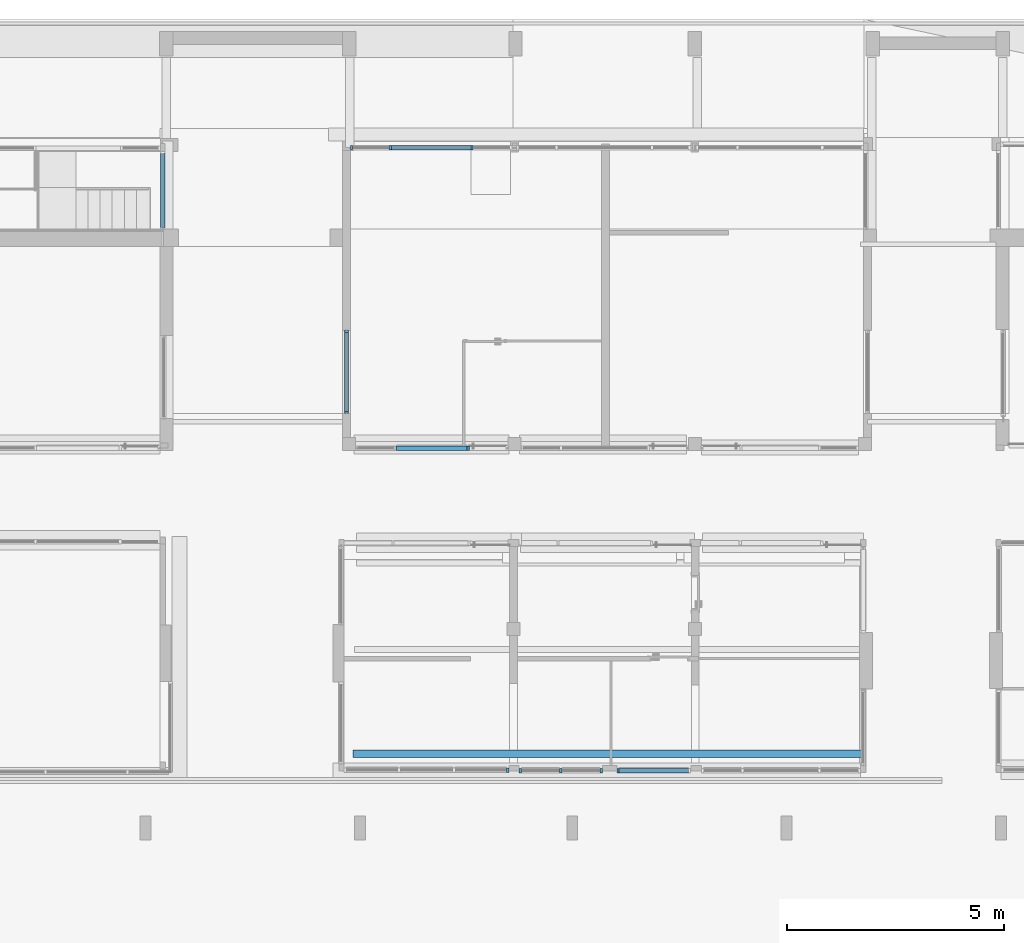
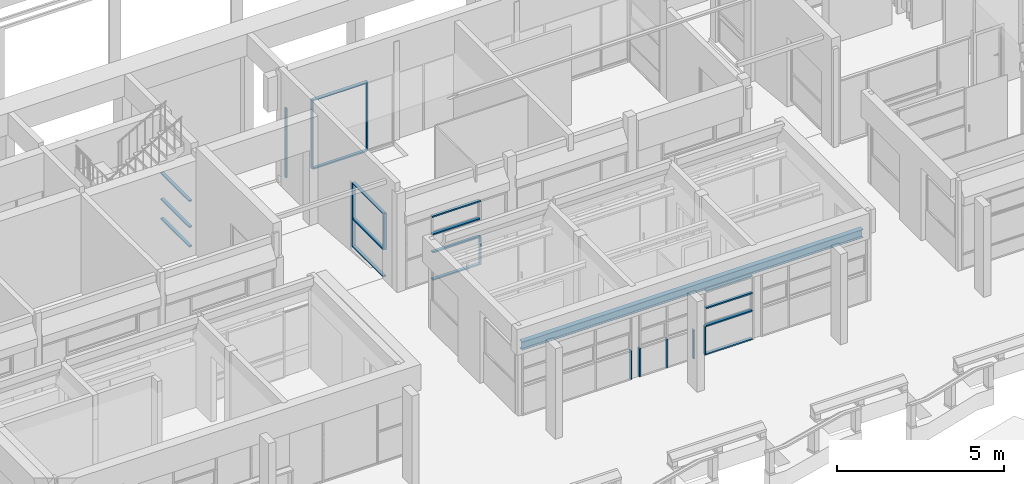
# One storey, part 10 of 117: 28 members, 1 beam, 7 elements without a shape of their own.
"""IFC4 building model written with IfcOpenShell, lengths in metres."""

from ifc_helpers import new_model, entity, si_unit, converted_unit, derived_unit, direction, frame, origin, place, context, subcontext, project, spatial, line, arc, indexed_curve, outline, extrude, source, transform, mapped, material, type_object, type_shapes, element, aggregate, save


model = new_model("IFC4")

# Units and contexts
model_context = context("Model", 3, precision=1e-05, world=origin(), true_north=direction((6.123031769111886e-17, 1.0)))
body_context = subcontext(model_context, "Body", "Model", "MODEL_VIEW")
ifc_project = project(units=[si_unit("LENGTHUNIT", "METRE"), si_unit("AREAUNIT", "SQUARE_METRE"), si_unit("VOLUMEUNIT", "CUBIC_METRE"), converted_unit("PLANEANGLEUNIT", "DEGREE", entity("IfcRatioMeasure", 0.017453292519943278), si_unit("PLANEANGLEUNIT", "RADIAN"), dimensions=[0, 0, 0, 0, 0, 0, 0]), si_unit("MASSUNIT", "GRAM", prefix="KILO"), derived_unit("MASSDENSITYUNIT", [(si_unit("MASSUNIT", "GRAM", prefix="KILO"), 1), (si_unit("LENGTHUNIT", "METRE"), -3)]), derived_unit("MOMENTOFINERTIAUNIT", [(si_unit("LENGTHUNIT", "METRE"), 4)]), si_unit("TIMEUNIT", "SECOND"), si_unit("FREQUENCYUNIT", "HERTZ"), si_unit("THERMODYNAMICTEMPERATUREUNIT", "DEGREE_CELSIUS"), derived_unit("THERMALTRANSMITTANCEUNIT", [(si_unit("MASSUNIT", "GRAM", prefix="KILO"), 1), (si_unit("THERMODYNAMICTEMPERATUREUNIT", "KELVIN"), -1), (si_unit("TIMEUNIT", "SECOND"), -3)]), derived_unit("VOLUMETRICFLOWRATEUNIT", [(si_unit("LENGTHUNIT", "METRE"), 3), (si_unit("TIMEUNIT", "SECOND"), -1)]), derived_unit("MASSFLOWRATEUNIT", [(si_unit("MASSUNIT", "GRAM", prefix="KILO"), 1), (si_unit("TIMEUNIT", "SECOND"), -1)]), derived_unit("ROTATIONALFREQUENCYUNIT", [(si_unit("TIMEUNIT", "SECOND"), -1)]), si_unit("ELECTRICCURRENTUNIT", "AMPERE"), si_unit("ELECTRICVOLTAGEUNIT", "VOLT"), si_unit("POWERUNIT", "WATT"), si_unit("FORCEUNIT", "NEWTON", prefix="KILO"), si_unit("ILLUMINANCEUNIT", "LUX"), si_unit("LUMINOUSFLUXUNIT", "LUMEN"), si_unit("LUMINOUSINTENSITYUNIT", "CANDELA"), derived_unit("USERDEFINED", [(si_unit("MASSUNIT", "GRAM", prefix="KILO"), -1), (si_unit("LENGTHUNIT", "METRE"), -2), (si_unit("TIMEUNIT", "SECOND"), 3), (si_unit("LUMINOUSFLUXUNIT", "LUMEN"), 1)]), derived_unit("SOUNDPOWERUNIT", [(si_unit("MASSUNIT", "GRAM", prefix="KILO"), 1), (si_unit("LENGTHUNIT", "METRE"), 2), (si_unit("TIMEUNIT", "SECOND"), -3)]), derived_unit("SOUNDPRESSUREUNIT", [(si_unit("MASSUNIT", "GRAM", prefix="KILO"), 1), (si_unit("LENGTHUNIT", "METRE"), -1), (si_unit("TIMEUNIT", "SECOND"), -2)]), derived_unit("LINEARVELOCITYUNIT", [(si_unit("LENGTHUNIT", "METRE"), 1), (si_unit("TIMEUNIT", "SECOND"), -1)]), si_unit("PRESSUREUNIT", "PASCAL"), derived_unit("USERDEFINED", [(si_unit("LENGTHUNIT", "METRE"), -2), (si_unit("MASSUNIT", "GRAM", prefix="KILO"), 1), (si_unit("TIMEUNIT", "SECOND"), -2)]), derived_unit("LINEARFORCEUNIT", [(si_unit("MASSUNIT", "GRAM", prefix="KILO"), 1), (si_unit("LENGTHUNIT", "METRE"), 1), (si_unit("TIMEUNIT", "SECOND"), -2), (si_unit("LENGTHUNIT", "METRE"), -1)]), derived_unit("PLANARFORCEUNIT", [(si_unit("MASSUNIT", "GRAM", prefix="KILO"), 1), (si_unit("LENGTHUNIT", "METRE"), 1), (si_unit("TIMEUNIT", "SECOND"), -2), (si_unit("LENGTHUNIT", "METRE"), -2)])], contexts=[model_context])

# Site, building, storey
site_placement = place(None, origin())
site = spatial("IfcSite", under=ifc_project, at=site_placement, Name="Superficie", CompositionType="ELEMENT")
building_placement = place(site_placement, origin())
building = spatial("IfcBuilding", under=site, at=building_placement, CompositionType="ELEMENT")
storey_placement = place(building_placement, origin())
storey = spatial("IfcBuildingStorey", under=building, at=storey_placement, Name="Nivel 0", CompositionType="ELEMENT", Elevation=0.0)

# Curtain wall, member
curtain_wall_type = type_object("IfcCurtainWallType", Name="Muro cortina:Muro cortina - simple", PredefinedType="NOTDEFINED")
curtain_wall_1_placement = place(storey_placement, origin())
curtain_wall_1 = element("IfcCurtainWall", 1, at=curtain_wall_1_placement, inside=storey, type_object=curtain_wall_type, Name="Muro cortina:Muro cortina - simple", ObjectType="Muro cortina:Muro cortina - simple", PredefinedType="NOTDEFINED")
ifc_material_1 = material(Name="<Unnamed>")
member_type_1 = type_object("IfcMemberType", Name="Montante rectangular:Montante rectangular - 5 x 10 cm", PredefinedType="MULLION", material=ifc_material_1)
shared_shape_1 = source(origin(), body_context, "Body", "SweptSolid", [
    extrude(outline(indexed_curve([(-0.05, -0.025), (0.05, -0.025), (0.05, 0.025), (-0.05, 0.025), (-0.05, -0.025)], self_intersect=False)), frame((0.0, 0.0, -1.0250000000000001), z_axis=(0.0, 0.0, 1.0), x_axis=(0.0, -1.0, 0.0)), (0.0, 0.0, 1.0), 1.0250000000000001),
])
type_shapes(member_type_1, [shared_shape_1])
member_1_placement = place(curtain_wall_1_placement, frame((0.8515520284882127, 8.413973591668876, -0.004999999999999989), z_axis=(0.0, 0.0, -1.0), x_axis=(0.0, -1.0, 0.0)))
member_1 = element("IfcMember", 2, at=member_1_placement, type_object=member_type_1, material=ifc_material_1, Name="Montante rectangular:Montante rectangular - 5 x 10 cm", ObjectType="Montante rectangular:Montante rectangular - 5 x 10 cm", PredefinedType="MULLION", context=body_context, shape_type="MappedRepresentation", body=[
    mapped(shared_shape_1, transform((0.0, 0.0, 0.0), scale=1.0)),
])

curtain_wall_2_placement = place(storey_placement, origin())
curtain_wall_2 = element("IfcCurtainWall", 3, at=curtain_wall_2_placement, inside=storey, type_object=curtain_wall_type, Name="Muro cortina:Muro cortina - simple", ObjectType="Muro cortina:Muro cortina - simple", PredefinedType="NOTDEFINED")
member_2_placement = place(curtain_wall_2_placement, frame((3.66155202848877, 5.716739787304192, -0.005000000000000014), z_axis=(0.0, 0.0, -1.0), x_axis=(1.0, 0.0, 0.0)))
member_2 = element("IfcMember", 4, at=member_2_placement, type_object=member_type_1, material=ifc_material_1, Name="Montante rectangular:Montante rectangular - 5 x 10 cm", ObjectType="Montante rectangular:Montante rectangular - 5 x 10 cm", PredefinedType="MULLION", context=body_context, shape_type="MappedRepresentation", body=[
    mapped(shared_shape_1, transform((0.0, 0.0, 0.0), scale=1.0)),
])

# Member
member_type_2 = type_object("IfcMemberType", Name="Montante rectangular:Montante rectangular - 5 x 10 cm", PredefinedType="MULLION", material=ifc_material_1)
shared_shape_2 = source(origin(), body_context, "Body", "SweptSolid", [
    extrude(outline(indexed_curve([(-0.05, -0.025), (0.05, -0.025), (0.05, 0.025), (-0.05, 0.025), (-0.05, -0.025)], self_intersect=False)), frame((0.0, 0.0, -1.3099999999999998), z_axis=(0.0, 0.0, 1.0), x_axis=(0.0, -1.0, 0.0)), (0.0, 0.0, 1.0), 1.3099999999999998),
])
type_shapes(member_type_2, [shared_shape_2])
member_3_placement = place(curtain_wall_1_placement, frame((0.8515520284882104, 6.5367397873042, 1.0200000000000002), z_axis=(0.0, 0.0, -1.0), x_axis=(0.0, -1.0, 0.0)))
member_3 = element("IfcMember", 5, at=member_3_placement, type_object=member_type_2, material=ifc_material_1, Name="Montante rectangular:Montante rectangular - 5 x 10 cm", ObjectType="Montante rectangular:Montante rectangular - 5 x 10 cm", PredefinedType="MULLION", context=body_context, shape_type="MappedRepresentation", body=[
    mapped(shared_shape_2, transform((0.0, 0.0, 0.0), scale=1.0)),
])

member_4_placement = place(curtain_wall_1_placement, frame((0.8515520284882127, 8.413973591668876, 1.0200000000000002), z_axis=(0.0, 0.0, -1.0), x_axis=(0.0, -1.0, 0.0)))
member_4 = element("IfcMember", 6, at=member_4_placement, type_object=member_type_2, material=ifc_material_1, Name="Montante rectangular:Montante rectangular - 5 x 10 cm", ObjectType="Montante rectangular:Montante rectangular - 5 x 10 cm", PredefinedType="MULLION", context=body_context, shape_type="MappedRepresentation", body=[
    mapped(shared_shape_2, transform((0.0, 0.0, 0.0), scale=1.0)),
])

# Beam
ifc_material_2 = material(Name="Metal - Acero - 345 MPa", Category="Metal")
beam_type = type_object("IfcBeamType", Name="UB-Perfil universal:305x165x40UB", PredefinedType="BEAM", material=ifc_material_2)
shared_shape_3 = source(origin(), body_context, "Body", "SweptSolid", [
    extrude(outline(indexed_curve([(-0.15169999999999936, -0.08250000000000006), (-0.14150000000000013, -0.08250000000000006), (-0.1415000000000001, -0.011899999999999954), (-0.13889325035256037, -0.005606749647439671), (-0.13260000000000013, -0.0029999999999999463), (0.1325999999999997, -0.0029999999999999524), (0.13889325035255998, -0.00560674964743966), (0.14149999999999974, -0.01189999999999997), (0.14149999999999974, -0.08250000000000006), (0.15170000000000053, -0.08250000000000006), (0.15170000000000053, 0.08250000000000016), (0.14149999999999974, 0.08250000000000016), (0.14149999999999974, 0.011900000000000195), (0.13889325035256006, 0.0056067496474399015), (0.13259999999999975, 0.003000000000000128), (-0.1326, 0.0030000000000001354), (-0.1388932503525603, 0.0056067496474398), (-0.14150000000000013, 0.011900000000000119), (-0.14150000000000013, 0.0824999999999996), (-0.15169999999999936, 0.0824999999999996)], segments=[line(1, 2, 3), arc(3, 4, 5), line(5, 6), arc(6, 7, 8), line(8, 9, 10, 11, 12, 13), arc(13, 14, 15), line(15, 16), arc(16, 17, 18), line(18, 19, 20, 1)], self_intersect=False)), frame((-5.930000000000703, 0.0, 0.0), z_axis=(1.0, 0.0, 0.0), x_axis=(0.0, 0.0, -1.0)), (0.0, 0.0, 1.0), 11.785000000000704),
])
type_shapes(beam_type, [shared_shape_3])
beam_placement = place(storey_placement, frame((6.931001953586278, -1.3391707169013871, 2.2483)))
element("IfcBeam", 7, at=beam_placement, inside=storey, type_object=beam_type, material=ifc_material_2, Name="UB-Perfil universal:305x165x40UB", ObjectType="UB-Perfil universal:305x165x40UB", PredefinedType="BEAM", context=body_context, shape_type="MappedRepresentation", body=[
    mapped(shared_shape_3, transform((0.0, 0.0, 0.0), scale=1.0)),
])

# Member
member_type_3 = type_object("IfcMemberType", Name="Montante rectangular:Montante rectangular - 5 x 10 cm", PredefinedType="MULLION", material=ifc_material_1)
shared_shape_4 = source(origin(), body_context, "Body", "SweptSolid", [
    extrude(outline(indexed_curve([(-0.05, -0.025), (0.05, -0.025), (0.05, 0.025), (-0.05, 0.025), (-0.05, -0.025)], self_intersect=False)), frame((-0.025, 0.0, -1.877233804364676), z_axis=(0.0, 0.0, 1.0), x_axis=(0.0, -1.0, 0.0)), (0.0, 0.0, 1.0), 1.8772338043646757),
])
type_shapes(member_type_3, [shared_shape_4])
member_5_placement = place(curtain_wall_1_placement, frame((0.8515520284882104, 6.5367397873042, 2.3499999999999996), z_axis=(0.0, -1.0, 0.0), x_axis=(0.0, 0.0, 1.0)))
member_5 = element("IfcMember", 8, at=member_5_placement, type_object=member_type_3, material=ifc_material_1, Name="Montante rectangular:Montante rectangular - 5 x 10 cm", ObjectType="Montante rectangular:Montante rectangular - 5 x 10 cm", PredefinedType="MULLION", context=body_context, shape_type="MappedRepresentation", body=[
    mapped(shared_shape_4, transform((0.0, 0.0, 0.0), scale=1.0)),
])

member_type_4 = type_object("IfcMemberType", Name="Montante rectangular:Montante rectangular - 5 x 10 cm", PredefinedType="MULLION", material=ifc_material_1)
shared_shape_5 = source(origin(), body_context, "Body", "SweptSolid", [
    extrude(outline(indexed_curve([(-0.05, -0.025), (0.05, -0.025), (0.05, 0.025), (-0.05, 0.025), (-0.05, -0.025)], self_intersect=False)), frame((0.0, 0.0, -1.827233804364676), z_axis=(0.0, 0.0, 1.0), x_axis=(0.0, -1.0, 0.0)), (0.0, 0.0, 1.0), 1.8272338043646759),
])
type_shapes(member_type_4, [shared_shape_5])
member_6_placement = place(curtain_wall_1_placement, frame((0.8515520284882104, 6.5617397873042, 0.020000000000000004), z_axis=(0.0, -1.0, 0.0), x_axis=(0.0, 0.0, 1.0)))
member_6 = element("IfcMember", 9, at=member_6_placement, type_object=member_type_4, material=ifc_material_1, Name="Montante rectangular:Montante rectangular - 5 x 10 cm", ObjectType="Montante rectangular:Montante rectangular - 5 x 10 cm", PredefinedType="MULLION", context=body_context, shape_type="MappedRepresentation", body=[
    mapped(shared_shape_5, transform((0.0, 0.0, 0.0), scale=1.0)),
])

member_7_placement = place(curtain_wall_1_placement, frame((0.8515520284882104, 6.5617397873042, 1.0200000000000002), z_axis=(0.0, -1.0, 0.0), x_axis=(0.0, 0.0, 1.0)))
member_7 = element("IfcMember", 10, at=member_7_placement, type_object=member_type_4, material=ifc_material_1, Name="Montante rectangular:Montante rectangular - 5 x 10 cm", ObjectType="Montante rectangular:Montante rectangular - 5 x 10 cm", PredefinedType="MULLION", context=body_context, shape_type="MappedRepresentation", body=[
    mapped(shared_shape_5, transform((0.0, 0.0, 0.0), scale=1.0)),
])

aggregate(curtain_wall_1, [member_5, member_6, member_1, member_3, member_4, member_7])

member_type_5 = type_object("IfcMemberType", Name="Montante rectangular:Montante rectangular - 5 x 10 cm", PredefinedType="MULLION", material=ifc_material_1)
shared_shape_6 = source(origin(), body_context, "Body", "SweptSolid", [
    extrude(outline(indexed_curve([(-0.05, -0.025), (0.05, -0.025), (0.05, 0.025), (-0.05, 0.025), (-0.05, -0.025)], self_intersect=False)), frame((-0.025, 0.0, -1.6800000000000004), z_axis=(0.0, 0.0, 1.0), x_axis=(0.0, -1.0, 0.0)), (0.0, 0.0, 1.0), 1.6800000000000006),
])
type_shapes(member_type_5, [shared_shape_6])
member_8_placement = place(curtain_wall_2_placement, frame((3.66155202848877, 5.716739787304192, 2.3499999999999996), z_axis=(1.0, 0.0, 0.0), x_axis=(0.0, 0.0, 1.0)))
member_8 = element("IfcMember", 11, at=member_8_placement, type_object=member_type_5, material=ifc_material_1, Name="Montante rectangular:Montante rectangular - 5 x 10 cm", ObjectType="Montante rectangular:Montante rectangular - 5 x 10 cm", PredefinedType="MULLION", context=body_context, shape_type="MappedRepresentation", body=[
    mapped(shared_shape_6, transform((0.0, 0.0, 0.0), scale=1.0)),
])

member_type_6 = type_object("IfcMemberType", Name="Montante rectangular:Montante rectangular - 5 x 10 cm", PredefinedType="MULLION", material=ifc_material_1)
shared_shape_7 = source(origin(), body_context, "Body", "SweptSolid", [
    extrude(outline(indexed_curve([(-0.05, -0.025), (0.05, -0.025), (0.05, 0.025), (-0.05, 0.025), (-0.05, -0.025)], self_intersect=False)), frame((0.0, 0.0, -1.6300000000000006), z_axis=(0.0, 0.0, 1.0), x_axis=(0.0, -1.0, 0.0)), (0.0, 0.0, 1.0), 1.6300000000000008),
])
type_shapes(member_type_6, [shared_shape_7])
member_9_placement = place(curtain_wall_2_placement, frame((3.6365520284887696, 5.716739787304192, 0.019999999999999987), z_axis=(1.0, 0.0, 0.0), x_axis=(0.0, 0.0, 1.0)))
member_9 = element("IfcMember", 12, at=member_9_placement, type_object=member_type_6, material=ifc_material_1, Name="Montante rectangular:Montante rectangular - 5 x 10 cm", ObjectType="Montante rectangular:Montante rectangular - 5 x 10 cm", PredefinedType="MULLION", context=body_context, shape_type="MappedRepresentation", body=[
    mapped(shared_shape_7, transform((0.0, 0.0, 0.0), scale=1.0)),
])

member_10_placement = place(curtain_wall_2_placement, frame((3.6365520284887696, 5.716739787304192, 1.0199999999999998), z_axis=(1.0, 0.0, 0.0), x_axis=(0.0, 0.0, 1.0)))
member_10 = element("IfcMember", 13, at=member_10_placement, type_object=member_type_6, material=ifc_material_1, Name="Montante rectangular:Montante rectangular - 5 x 10 cm", ObjectType="Montante rectangular:Montante rectangular - 5 x 10 cm", PredefinedType="MULLION", context=body_context, shape_type="MappedRepresentation", body=[
    mapped(shared_shape_7, transform((0.0, 0.0, 0.0), scale=1.0)),
])

member_11_placement = place(curtain_wall_2_placement, frame((3.6365520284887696, 5.716739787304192, 1.6749999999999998), z_axis=(1.0, 0.0, 0.0), x_axis=(0.0, 0.0, 1.0)))
member_11 = element("IfcMember", 14, at=member_11_placement, type_object=member_type_6, material=ifc_material_1, Name="Montante rectangular:Montante rectangular - 5 x 10 cm", ObjectType="Montante rectangular:Montante rectangular - 5 x 10 cm", PredefinedType="MULLION", context=body_context, shape_type="MappedRepresentation", body=[
    mapped(shared_shape_7, transform((0.0, 0.0, 0.0), scale=1.0)),
])

aggregate(curtain_wall_2, [member_8, member_9, member_2, member_10, member_11])

# Curtain wall, members
curtain_wall_3_placement = place(storey_placement, origin())
curtain_wall_3 = element("IfcCurtainWall", 15, at=curtain_wall_3_placement, inside=storey, type_object=curtain_wall_type, Name="Muro cortina:Muro cortina - simple", ObjectType="Muro cortina:Muro cortina - simple", PredefinedType="NOTDEFINED")
member_type_7 = type_object("IfcMemberType", Name="Montante rectangular:Montante rectangular - 5 x 10 cm", PredefinedType="MULLION", material=ifc_material_1)
shared_shape_8 = source(origin(), body_context, "Body", "SweptSolid", [
    extrude(outline(indexed_curve([(-0.05, -0.025), (0.05, -0.025), (0.05, 0.025), (-0.05, 0.025), (-0.05, -0.025)], self_intersect=False)), frame((0.0, 0.0, -1.705000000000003), z_axis=(0.0, 0.0, 1.0), x_axis=(0.0, -1.0, 0.0)), (0.0, 0.0, 1.0), 1.7050000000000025),
])
type_shapes(member_type_7, [shared_shape_8])
member_12_placement = place(curtain_wall_3_placement, frame((-3.393200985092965, 12.520829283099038, 0.019999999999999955), z_axis=(0.0, 1.0, 0.0), x_axis=(0.0, 0.0, 1.0)))
member_12 = element("IfcMember", 16, at=member_12_placement, type_object=member_type_7, material=ifc_material_1, Name="Montante rectangular:Montante rectangular - 5 x 10 cm", ObjectType="Montante rectangular:Montante rectangular - 5 x 10 cm", PredefinedType="MULLION", context=body_context, shape_type="MappedRepresentation", body=[
    mapped(shared_shape_8, transform((0.0, 0.0, 0.0), scale=1.0)),
])
member_13_placement = place(curtain_wall_3_placement, frame((-3.393200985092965, 12.520829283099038, 1.6799999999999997), z_axis=(0.0, 1.0, 0.0), x_axis=(0.0, 0.0, 1.0)))
member_13 = element("IfcMember", 17, at=member_13_placement, type_object=member_type_7, material=ifc_material_1, Name="Montante rectangular:Montante rectangular - 5 x 10 cm", ObjectType="Montante rectangular:Montante rectangular - 5 x 10 cm", PredefinedType="MULLION", context=body_context, shape_type="MappedRepresentation", body=[
    mapped(shared_shape_8, transform((0.0, 0.0, 0.0), scale=1.0)),
])
member_14_placement = place(curtain_wall_3_placement, frame((-3.393200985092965, 12.520829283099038, 0.73), z_axis=(0.0, 1.0, 0.0), x_axis=(0.0, 0.0, 1.0)))
member_14 = element("IfcMember", 18, at=member_14_placement, type_object=member_type_7, material=ifc_material_1, Name="Montante rectangular:Montante rectangular - 5 x 10 cm", ObjectType="Montante rectangular:Montante rectangular - 5 x 10 cm", PredefinedType="MULLION", context=body_context, shape_type="MappedRepresentation", body=[
    mapped(shared_shape_8, transform((0.0, 0.0, 0.0), scale=1.0)),
])
aggregate(curtain_wall_3, [member_12, member_13, member_14])

# Curtain wall, member
curtain_wall_4_placement = place(storey_placement, origin())
curtain_wall_4 = element("IfcCurtainWall", 19, at=curtain_wall_4_placement, inside=storey, type_object=curtain_wall_type, Name="Muro cortina:Muro cortina - simple", ObjectType="Muro cortina:Muro cortina - simple", PredefinedType="NOTDEFINED")
member_type_8 = type_object("IfcMemberType", Name="Montante rectangular:Montante rectangular - 5 x 10 cm", PredefinedType="MULLION", material=ifc_material_1)
shared_shape_9 = source(origin(), body_context, "Body", "SweptSolid", [
    extrude(outline(indexed_curve([(-0.05, -0.025), (0.05, -0.025), (0.05, 0.025), (-0.05, 0.025), (-0.05, -0.025)], self_intersect=False)), frame((-0.025, 0.0, -1.0499999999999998), z_axis=(0.0, 0.0, 1.0), x_axis=(0.0, -1.0, 0.0)), (0.0, 0.0, 1.0), 1.0499999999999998),
])
type_shapes(member_type_8, [shared_shape_9])
member_15_placement = place(curtain_wall_4_placement, frame((6.756799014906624, -1.734170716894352, 0.0), z_axis=(0.0, 0.0, -1.0), x_axis=(1.0, 0.0, 0.0)))
member_15 = element("IfcMember", 20, at=member_15_placement, type_object=member_type_8, material=ifc_material_1, Name="Montante rectangular:Montante rectangular - 5 x 10 cm", ObjectType="Montante rectangular:Montante rectangular - 5 x 10 cm", PredefinedType="MULLION", context=body_context, shape_type="MappedRepresentation", body=[
    mapped(shared_shape_9, transform((0.0, 0.0, 0.0), scale=1.0)),
])

curtain_wall_5_placement = place(storey_placement, origin())
curtain_wall_5 = element("IfcCurtainWall", 21, at=curtain_wall_5_placement, inside=storey, type_object=curtain_wall_type, Name="Muro cortina:Muro cortina - simple", ObjectType="Muro cortina:Muro cortina - simple", PredefinedType="NOTDEFINED")
member_type_9 = type_object("IfcMemberType", Name="Montante rectangular:Montante rectangular - 5 x 10 cm", PredefinedType="MULLION", material=ifc_material_1)
shared_shape_10 = source(origin(), body_context, "Body", "SweptSolid", [
    extrude(outline(indexed_curve([(-0.05, -0.025), (0.05, -0.025), (0.05, 0.025), (-0.05, 0.025), (-0.05, -0.025)], self_intersect=False)), frame((-0.025, 0.0, -1.05), z_axis=(0.0, 0.0, 1.0), x_axis=(0.0, -1.0, 0.0)), (0.0, 0.0, 1.0), 1.05),
])
type_shapes(member_type_9, [shared_shape_10])
member_16_placement = place(curtain_wall_5_placement, frame((4.596799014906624, -1.7241707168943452, 1.05)))
member_16 = element("IfcMember", 22, at=member_16_placement, type_object=member_type_9, material=ifc_material_1, Name="Montante rectangular:Montante rectangular - 5 x 10 cm", ObjectType="Montante rectangular:Montante rectangular - 5 x 10 cm", PredefinedType="MULLION", context=body_context, shape_type="MappedRepresentation", body=[
    mapped(shared_shape_10, transform((0.0, 0.0, 0.0), scale=1.0)),
])
aggregate(curtain_wall_5, [member_16])

# Member
member_17_placement = place(curtain_wall_4_placement, frame((4.8367990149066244, -1.7341707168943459, 1.05), z_axis=(0.0, 0.0, 1.0), x_axis=(-1.0, 0.0, 0.0)))
member_17 = element("IfcMember", 23, at=member_17_placement, type_object=member_type_9, material=ifc_material_1, Name="Montante rectangular:Montante rectangular - 5 x 10 cm", ObjectType="Montante rectangular:Montante rectangular - 5 x 10 cm", PredefinedType="MULLION", context=body_context, shape_type="MappedRepresentation", body=[
    mapped(shared_shape_10, transform((0.0, 0.0, 0.0), scale=1.0)),
])

# Curtain wall, member
curtain_wall_6_placement = place(storey_placement, origin())
curtain_wall_6 = element("IfcCurtainWall", 24, at=curtain_wall_6_placement, inside=storey, type_object=curtain_wall_type, Name="Muro cortina:Muro cortina - simple", ObjectType="Muro cortina:Muro cortina - simple", PredefinedType="NOTDEFINED")
member_18_placement = place(curtain_wall_6_placement, frame((7.096799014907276, -1.734170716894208, 1.05), z_axis=(0.0, 0.0, 1.0), x_axis=(-1.0, 0.0, 0.0)))
member_18 = element("IfcMember", 25, at=member_18_placement, type_object=member_type_9, material=ifc_material_1, Name="Montante rectangular:Montante rectangular - 5 x 10 cm", ObjectType="Montante rectangular:Montante rectangular - 5 x 10 cm", PredefinedType="MULLION", context=body_context, shape_type="MappedRepresentation", body=[
    mapped(shared_shape_10, transform((0.0, 0.0, 0.0), scale=1.0)),
])

# Member
member_type_10 = type_object("IfcMemberType", Name="Montante rectangular:Montante rectangular - 5 x 10 cm", PredefinedType="MULLION", material=ifc_material_1)
shared_shape_11 = source(origin(), body_context, "Body", "SweptSolid", [
    extrude(outline(indexed_curve([(-0.05, -0.025), (0.05, -0.025), (0.05, 0.025), (-0.05, 0.025), (-0.05, -0.025)], self_intersect=False)), frame((0.0, 0.0, -1.0499999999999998), z_axis=(0.0, 0.0, 1.0), x_axis=(0.0, -1.0, 0.0)), (0.0, 0.0, 1.0), 1.0499999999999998),
])
type_shapes(member_type_10, [shared_shape_11])
member_19_placement = place(curtain_wall_4_placement, frame((5.796799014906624, -1.7341707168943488, 0.0), z_axis=(0.0, 0.0, -1.0), x_axis=(1.0, 0.0, 0.0)))
member_19 = element("IfcMember", 26, at=member_19_placement, type_object=member_type_10, material=ifc_material_1, Name="Montante rectangular:Montante rectangular - 5 x 10 cm", ObjectType="Montante rectangular:Montante rectangular - 5 x 10 cm", PredefinedType="MULLION", context=body_context, shape_type="MappedRepresentation", body=[
    mapped(shared_shape_11, transform((0.0, 0.0, 0.0), scale=1.0)),
])

aggregate(curtain_wall_4, [member_15, member_17, member_19])

member_type_11 = type_object("IfcMemberType", Name="Montante rectangular:Montante rectangular - 5 x 10 cm", PredefinedType="MULLION", material=ifc_material_1)
shared_shape_12 = source(origin(), body_context, "Body", "SweptSolid", [
    extrude(outline(indexed_curve([(-0.05, -0.025), (0.05, -0.025), (0.05, 0.025), (-0.05, 0.025), (-0.05, -0.025)], self_intersect=False)), frame((-0.025, 0.0, -1.5999999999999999), z_axis=(0.0, 0.0, 1.0), x_axis=(0.0, -1.0, 0.0)), (0.0, 0.0, 1.0), 1.6000000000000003),
])
type_shapes(member_type_11, [shared_shape_12])
member_20_placement = place(curtain_wall_6_placement, frame((8.746799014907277, -1.7341707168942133, 2.35), z_axis=(1.0, 0.0, 0.0), x_axis=(0.0, 0.0, 1.0)))
member_20 = element("IfcMember", 27, at=member_20_placement, type_object=member_type_11, material=ifc_material_1, Name="Montante rectangular:Montante rectangular - 5 x 10 cm", ObjectType="Montante rectangular:Montante rectangular - 5 x 10 cm", PredefinedType="MULLION", context=body_context, shape_type="MappedRepresentation", body=[
    mapped(shared_shape_12, transform((0.0, 0.0, 0.0), scale=1.0)),
])

member_type_12 = type_object("IfcMemberType", Name="Montante rectangular:Montante rectangular - 5 x 10 cm", PredefinedType="MULLION", material=ifc_material_1)
shared_shape_13 = source(origin(), body_context, "Body", "SweptSolid", [
    extrude(outline(indexed_curve([(-0.05, -0.025), (0.05, -0.025), (0.05, 0.025), (-0.05, 0.025), (-0.05, -0.025)], self_intersect=False)), frame((-0.025, 0.0, -1.6000000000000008), z_axis=(0.0, 0.0, 1.0), x_axis=(0.0, -1.0, 0.0)), (0.0, 0.0, 1.0), 1.6),
])
type_shapes(member_type_12, [shared_shape_13])
member_21_placement = place(curtain_wall_6_placement, frame((7.146799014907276, -1.7341707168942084, 0.0), z_axis=(-1.0, 0.0, 0.0), x_axis=(0.0, 0.0, -1.0)))
member_21 = element("IfcMember", 28, at=member_21_placement, type_object=member_type_12, material=ifc_material_1, Name="Montante rectangular:Montante rectangular - 5 x 10 cm", ObjectType="Montante rectangular:Montante rectangular - 5 x 10 cm", PredefinedType="MULLION", context=body_context, shape_type="MappedRepresentation", body=[
    mapped(shared_shape_13, transform((0.0, 0.0, 0.0), scale=1.0)),
])

member_type_13 = type_object("IfcMemberType", Name="Montante rectangular:Montante rectangular - 5 x 10 cm", PredefinedType="MULLION", material=ifc_material_1)
shared_shape_14 = source(origin(), body_context, "Body", "SweptSolid", [
    extrude(outline(indexed_curve([(-0.05, -0.025), (0.05, -0.025), (0.05, 0.025), (-0.05, 0.025), (-0.05, -0.025)], self_intersect=False)), frame((0.0, 0.0, -1.5999999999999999), z_axis=(0.0, 0.0, 1.0), x_axis=(0.0, -1.0, 0.0)), (0.0, 0.0, 1.0), 1.6000000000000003),
])
type_shapes(member_type_13, [shared_shape_14])
member_22_placement = place(curtain_wall_6_placement, frame((8.746799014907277, -1.7341707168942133, 1.0499999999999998), z_axis=(1.0, 0.0, 0.0), x_axis=(0.0, 0.0, 1.0)))
member_22 = element("IfcMember", 29, at=member_22_placement, type_object=member_type_13, material=ifc_material_1, Name="Montante rectangular:Montante rectangular - 5 x 10 cm", ObjectType="Montante rectangular:Montante rectangular - 5 x 10 cm", PredefinedType="MULLION", context=body_context, shape_type="MappedRepresentation", body=[
    mapped(shared_shape_14, transform((0.0, 0.0, 0.0), scale=1.0)),
])

member_23_placement = place(curtain_wall_6_placement, frame((8.746799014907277, -1.7341707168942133, 1.7), z_axis=(1.0, 0.0, 0.0), x_axis=(0.0, 0.0, 1.0)))
member_23 = element("IfcMember", 30, at=member_23_placement, type_object=member_type_13, material=ifc_material_1, Name="Montante rectangular:Montante rectangular - 5 x 10 cm", ObjectType="Montante rectangular:Montante rectangular - 5 x 10 cm", PredefinedType="MULLION", context=body_context, shape_type="MappedRepresentation", body=[
    mapped(shared_shape_14, transform((0.0, 0.0, 0.0), scale=1.0)),
])

aggregate(curtain_wall_6, [member_20, member_21, member_18, member_22, member_23])

# Curtain wall, members
curtain_wall_7_placement = place(storey_placement, origin())
curtain_wall_7 = element("IfcCurtainWall", 31, at=curtain_wall_7_placement, inside=storey, type_object=curtain_wall_type, Name="Muro cortina:Muro cortina - simple", ObjectType="Muro cortina:Muro cortina - simple", PredefinedType="NOTDEFINED")
member_type_14 = type_object("IfcMemberType", Name="Montante rectangular:Montante rectangular - 5 x 10 cm", PredefinedType="MULLION", material=ifc_material_1)
shared_shape_15 = source(origin(), body_context, "Body", "SweptSolid", [
    extrude(outline(indexed_curve([(-0.05, -0.025), (0.05, -0.025), (0.05, 0.025), (-0.05, 0.025), (-0.05, -0.025)], self_intersect=False)), frame((-0.025, 0.0, -1.839999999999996), z_axis=(0.0, 0.0, 1.0), x_axis=(0.0, -1.0, 0.0)), (0.0, 0.0, 1.0), 1.839999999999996),
])
type_shapes(member_type_14, [shared_shape_15])
member_24_placement = place(curtain_wall_7_placement, frame((1.8865520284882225, 12.654548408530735, 2.44), z_axis=(-1.0, 0.0, 0.0), x_axis=(0.0, 0.0, 1.0)))
member_24 = element("IfcMember", 32, at=member_24_placement, type_object=member_type_14, material=ifc_material_1, Name="Montante rectangular:Montante rectangular - 5 x 10 cm", ObjectType="Montante rectangular:Montante rectangular - 5 x 10 cm", PredefinedType="MULLION", context=body_context, shape_type="MappedRepresentation", body=[
    mapped(shared_shape_15, transform((0.0, 0.0, 0.0), scale=1.0)),
])
member_type_15 = type_object("IfcMemberType", Name="Montante rectangular:Montante rectangular - 5 x 10 cm", PredefinedType="MULLION", material=ifc_material_1)
shared_shape_16 = source(origin(), body_context, "Body", "SweptSolid", [
    extrude(outline(indexed_curve([(-0.05, -0.025), (0.05, -0.025), (0.05, 0.025), (-0.05, 0.025), (-0.05, -0.025)], self_intersect=False)), frame((0.0, 0.0, -2.5264770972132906), z_axis=(0.0, 0.0, 1.0), x_axis=(0.0, -1.0, 0.0)), (0.0, 0.0, 1.0), 2.5264770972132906),
])
type_shapes(member_type_15, [shared_shape_16])
member_25_placement = place(curtain_wall_7_placement, frame((3.7515520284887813, 12.65454840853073, -0.08647709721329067), z_axis=(0.0, 0.0, -1.0), x_axis=(-1.0, 0.0, 0.0)))
member_25 = element("IfcMember", 33, at=member_25_placement, type_object=member_type_15, material=ifc_material_1, Name="Montante rectangular:Montante rectangular - 5 x 10 cm", ObjectType="Montante rectangular:Montante rectangular - 5 x 10 cm", PredefinedType="MULLION", context=body_context, shape_type="MappedRepresentation", body=[
    mapped(shared_shape_16, transform((0.0, 0.0, 0.0), scale=1.0)),
])
member_26_placement = place(curtain_wall_7_placement, frame((0.9615520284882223, 12.654548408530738, -0.08647709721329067), z_axis=(0.0, 0.0, -1.0), x_axis=(-1.0, 0.0, 0.0)))
member_26 = element("IfcMember", 34, at=member_26_placement, type_object=member_type_15, material=ifc_material_1, Name="Montante rectangular:Montante rectangular - 5 x 10 cm", ObjectType="Montante rectangular:Montante rectangular - 5 x 10 cm", PredefinedType="MULLION", context=body_context, shape_type="MappedRepresentation", body=[
    mapped(shared_shape_16, transform((0.0, 0.0, 0.0), scale=1.0)),
])
member_27_placement = place(curtain_wall_7_placement, frame((1.8615520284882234, 12.654548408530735, -0.08647709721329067), z_axis=(0.0, 0.0, -1.0), x_axis=(-1.0, 0.0, 0.0)))
member_27 = element("IfcMember", 35, at=member_27_placement, type_object=member_type_15, material=ifc_material_1, Name="Montante rectangular:Montante rectangular - 5 x 10 cm", ObjectType="Montante rectangular:Montante rectangular - 5 x 10 cm", PredefinedType="MULLION", context=body_context, shape_type="MappedRepresentation", body=[
    mapped(shared_shape_16, transform((0.0, 0.0, 0.0), scale=1.0)),
])
member_type_16 = type_object("IfcMemberType", Name="Montante rectangular:Montante rectangular - 5 x 10 cm", PredefinedType="MULLION", material=ifc_material_1)
shared_shape_17 = source(origin(), body_context, "Body", "SweptSolid", [
    extrude(outline(indexed_curve([(-0.05, -0.025), (0.05, -0.025), (0.05, 0.025), (-0.05, 0.025), (-0.05, -0.025)], self_intersect=False)), frame((0.0, 0.0, -1.840000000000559), z_axis=(0.0, 0.0, 1.0), x_axis=(0.0, -1.0, 0.0)), (0.0, 0.0, 1.0), 1.840000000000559),
])
type_shapes(member_type_16, [shared_shape_17])
member_28_placement = place(curtain_wall_7_placement, frame((1.8865520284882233, 12.654548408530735, -0.08647709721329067), z_axis=(-1.0, 0.0, 0.0), x_axis=(0.0, 0.0, 1.0)))
member_28 = element("IfcMember", 36, at=member_28_placement, type_object=member_type_16, material=ifc_material_1, Name="Montante rectangular:Montante rectangular - 5 x 10 cm", ObjectType="Montante rectangular:Montante rectangular - 5 x 10 cm", PredefinedType="MULLION", context=body_context, shape_type="MappedRepresentation", body=[
    mapped(shared_shape_17, transform((0.0, 0.0, 0.0), scale=1.0)),
])
aggregate(curtain_wall_7, [member_28, member_25, member_26, member_24, member_27])

save(model, "model.ifc")
